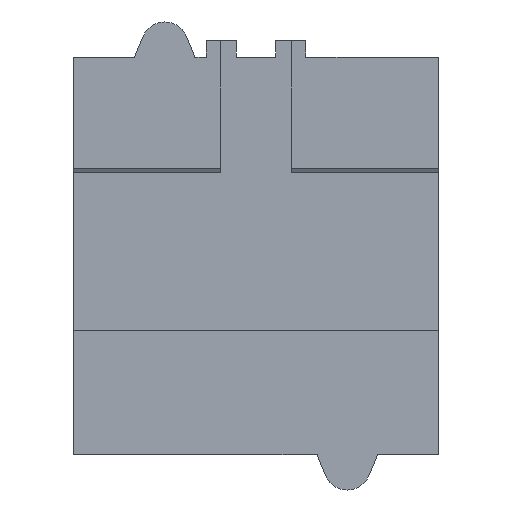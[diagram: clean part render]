
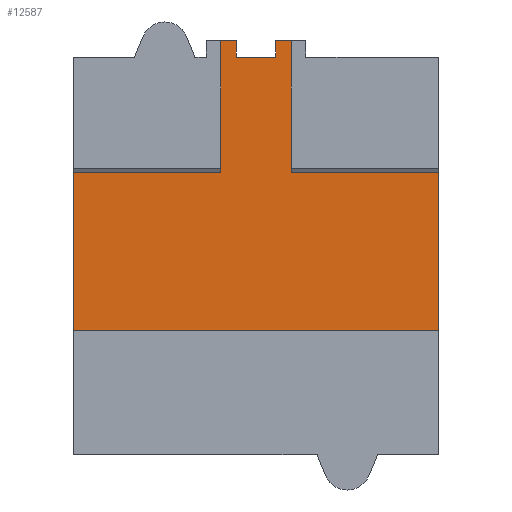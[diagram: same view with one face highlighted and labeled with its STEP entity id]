
A CAD part, front view. The second image highlights one B-rep face of the part: STEP entity #12587.
In plain terms, the highlighted planar face has unit normal (0, -1, 0).
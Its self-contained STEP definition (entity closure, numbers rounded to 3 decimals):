
#76 = LINE ( 'NONE', #18348, #3096 ) ;
#125 = CARTESIAN_POINT ( 'NONE',  ( -39., 4., 42.5 ) ) ;
#288 = ORIENTED_EDGE ( 'NONE', *, *, #7337, .F. ) ;
#385 = EDGE_CURVE ( 'NONE', #3269, #10974, #3086, .T. ) ;
#929 = VECTOR ( 'NONE', #16503, 1000. ) ;
#1235 = VERTEX_POINT ( 'NONE', #19022 ) ;
#1463 = ORIENTED_EDGE ( 'NONE', *, *, #6453, .T. ) ;
#1661 = VECTOR ( 'NONE', #2163, 1000. ) ;
#1713 = CARTESIAN_POINT ( 'NONE',  ( 4.25, 4., 46. ) ) ;
#1807 = EDGE_CURVE ( 'NONE', #14328, #12844, #6759, .T. ) ;
#1865 = DIRECTION ( 'NONE',  ( 1., 0., 0. ) ) ;
#1933 = ORIENTED_EDGE ( 'NONE', *, *, #14726, .T. ) ;
#2163 = DIRECTION ( 'NONE',  ( -1., 0., 0. ) ) ;
#2305 = CARTESIAN_POINT ( 'NONE',  ( -39., 4., 17.8 ) ) ;
#2487 = LINE ( 'NONE', #13737, #17444 ) ;
#2895 = CARTESIAN_POINT ( 'NONE',  ( 7.5, 4., 46. ) ) ;
#2991 = LINE ( 'NONE', #5879, #14418 ) ;
#3086 = LINE ( 'NONE', #6209, #18507 ) ;
#3096 = VECTOR ( 'NONE', #1865, 1000. ) ;
#3250 = DIRECTION ( 'NONE',  ( 0., 0., -1. ) ) ;
#3269 = VERTEX_POINT ( 'NONE', #1713 ) ;
#3689 = CARTESIAN_POINT ( 'NONE',  ( -7.5, 4., 17.8 ) ) ;
#4447 = ORIENTED_EDGE ( 'NONE', *, *, #13824, .F. ) ;
#4521 = ORIENTED_EDGE ( 'NONE', *, *, #1807, .T. ) ;
#4554 = DIRECTION ( 'NONE',  ( 0., 0., -1. ) ) ;
#4682 = CARTESIAN_POINT ( 'NONE',  ( -39., 4., 17.8 ) ) ;
#4843 = LINE ( 'NONE', #11368, #8839 ) ;
#4887 = LINE ( 'NONE', #125, #929 ) ;
#5036 = LINE ( 'NONE', #12543, #16031 ) ;
#5113 = CARTESIAN_POINT ( 'NONE',  ( -4.25, 4., 46. ) ) ;
#5278 = EDGE_CURVE ( 'NONE', #1235, #16650, #4843, .T. ) ;
#5451 = EDGE_CURVE ( 'NONE', #13813, #3269, #18413, .T. ) ;
#5879 = CARTESIAN_POINT ( 'NONE',  ( -39., 4., 17.8 ) ) ;
#6007 = CARTESIAN_POINT ( 'NONE',  ( -39., 4., 42.5 ) ) ;
#6147 = DIRECTION ( 'NONE',  ( 1., 0., 0. ) ) ;
#6203 = DIRECTION ( 'NONE',  ( 0., 1., 0. ) ) ;
#6209 = CARTESIAN_POINT ( 'NONE',  ( 4.25, 4., 42.5 ) ) ;
#6453 = EDGE_CURVE ( 'NONE', #12844, #9332, #9603, .T. ) ;
#6640 = ORIENTED_EDGE ( 'NONE', *, *, #19247, .T. ) ;
#6667 = DIRECTION ( 'NONE',  ( 0., 0., 1. ) ) ;
#6759 = LINE ( 'NONE', #17161, #17751 ) ;
#7249 = ORIENTED_EDGE ( 'NONE', *, *, #14610, .T. ) ;
#7251 = DIRECTION ( 'NONE',  ( -1., 0., 0. ) ) ;
#7337 = EDGE_CURVE ( 'NONE', #17407, #15772, #4887, .T. ) ;
#7511 = CARTESIAN_POINT ( 'NONE',  ( 4.25, 4., 42.5 ) ) ;
#8054 = ORIENTED_EDGE ( 'NONE', *, *, #8872, .F. ) ;
#8090 = EDGE_CURVE ( 'NONE', #18969, #16650, #9097, .T. ) ;
#8355 = DIRECTION ( 'NONE',  ( 1., 0., 0. ) ) ;
#8839 = VECTOR ( 'NONE', #8355, 1000. ) ;
#8872 = EDGE_CURVE ( 'NONE', #14328, #10974, #9296, .T. ) ;
#8883 = EDGE_LOOP ( 'NONE', ( #6640, #17120, #15252, #1933, #13285, #11508, #8054, #4521, #1463, #7249, #4447, #288 ) ) ;
#9097 = LINE ( 'NONE', #18136, #16562 ) ;
#9296 = LINE ( 'NONE', #6007, #16768 ) ;
#9332 = VERTEX_POINT ( 'NONE', #17063 ) ;
#9603 = LINE ( 'NONE', #14111, #1661 ) ;
#10675 = DIRECTION ( 'NONE',  ( 0., 0., 1. ) ) ;
#10974 = VERTEX_POINT ( 'NONE', #7511 ) ;
#11368 = CARTESIAN_POINT ( 'NONE',  ( -39., 4., 17.8 ) ) ;
#11508 = ORIENTED_EDGE ( 'NONE', *, *, #385, .T. ) ;
#12486 = DIRECTION ( 'NONE',  ( 0., 0., 1. ) ) ;
#12543 = CARTESIAN_POINT ( 'NONE',  ( 7.5, 4., 17.8 ) ) ;
#12587 = ADVANCED_FACE ( 'NONE', ( #15864 ), #13640, .F. ) ;
#12844 = VERTEX_POINT ( 'NONE', #5113 ) ;
#13241 = CARTESIAN_POINT ( 'NONE',  ( 39., 4., -17.5 ) ) ;
#13285 = ORIENTED_EDGE ( 'NONE', *, *, #5451, .T. ) ;
#13332 = AXIS2_PLACEMENT_3D ( 'NONE', #4682, #6203, #16641 ) ;
#13640 = PLANE ( 'NONE',  #13332 ) ;
#13737 = CARTESIAN_POINT ( 'NONE',  ( -7.5, 4., 17.8 ) ) ;
#13813 = VERTEX_POINT ( 'NONE', #2895 ) ;
#13824 = EDGE_CURVE ( 'NONE', #15772, #14213, #2991, .T. ) ;
#13893 = CARTESIAN_POINT ( 'NONE',  ( 39., 4., 17.8 ) ) ;
#14111 = CARTESIAN_POINT ( 'NONE',  ( -7.5, 4., 46. ) ) ;
#14213 = VERTEX_POINT ( 'NONE', #3689 ) ;
#14328 = VERTEX_POINT ( 'NONE', #17355 ) ;
#14388 = CARTESIAN_POINT ( 'NONE',  ( -39., 4., -17.5 ) ) ;
#14416 = VECTOR ( 'NONE', #7251, 1000. ) ;
#14418 = VECTOR ( 'NONE', #14847, 1000. ) ;
#14610 = EDGE_CURVE ( 'NONE', #9332, #14213, #2487, .T. ) ;
#14726 = EDGE_CURVE ( 'NONE', #1235, #13813, #5036, .T. ) ;
#14847 = DIRECTION ( 'NONE',  ( 1., 0., 0. ) ) ;
#15252 = ORIENTED_EDGE ( 'NONE', *, *, #5278, .F. ) ;
#15772 = VERTEX_POINT ( 'NONE', #2305 ) ;
#15864 = FACE_OUTER_BOUND ( 'NONE', #8883, .T. ) ;
#16031 = VECTOR ( 'NONE', #12486, 1000. ) ;
#16197 = CARTESIAN_POINT ( 'NONE',  ( -7.5, 4., 46. ) ) ;
#16503 = DIRECTION ( 'NONE',  ( 0., 0., 1. ) ) ;
#16562 = VECTOR ( 'NONE', #10675, 1000. ) ;
#16641 = DIRECTION ( 'NONE',  ( 0., 0., 1. ) ) ;
#16650 = VERTEX_POINT ( 'NONE', #13893 ) ;
#16768 = VECTOR ( 'NONE', #6147, 1000. ) ;
#17063 = CARTESIAN_POINT ( 'NONE',  ( -7.5, 4., 46. ) ) ;
#17120 = ORIENTED_EDGE ( 'NONE', *, *, #8090, .T. ) ;
#17161 = CARTESIAN_POINT ( 'NONE',  ( -4.25, 4., 46. ) ) ;
#17355 = CARTESIAN_POINT ( 'NONE',  ( -4.25, 4., 42.5 ) ) ;
#17407 = VERTEX_POINT ( 'NONE', #14388 ) ;
#17444 = VECTOR ( 'NONE', #4554, 1000. ) ;
#17751 = VECTOR ( 'NONE', #6667, 1000. ) ;
#18136 = CARTESIAN_POINT ( 'NONE',  ( 39., 4., 17.8 ) ) ;
#18348 = CARTESIAN_POINT ( 'NONE',  ( -39., 4., -17.5 ) ) ;
#18413 = LINE ( 'NONE', #16197, #14416 ) ;
#18507 = VECTOR ( 'NONE', #3250, 1000. ) ;
#18969 = VERTEX_POINT ( 'NONE', #13241 ) ;
#19022 = CARTESIAN_POINT ( 'NONE',  ( 7.5, 4., 17.8 ) ) ;
#19247 = EDGE_CURVE ( 'NONE', #17407, #18969, #76, .T. ) ;
